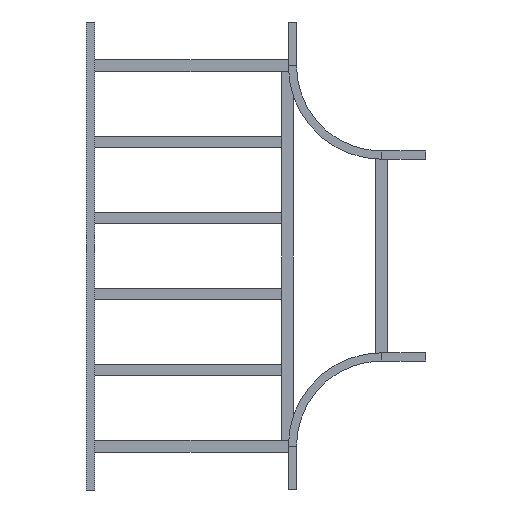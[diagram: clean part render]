
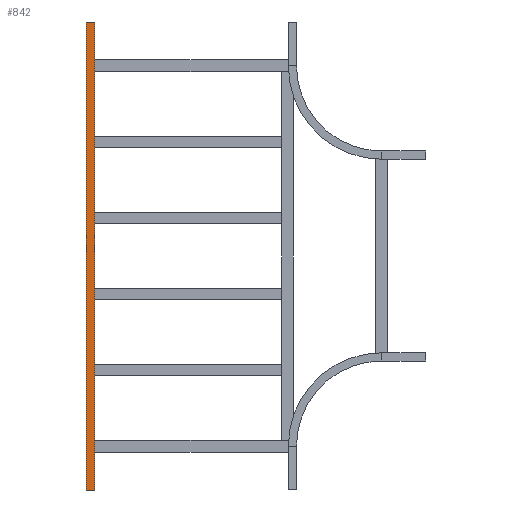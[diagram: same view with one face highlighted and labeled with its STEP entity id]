
A CAD part, front view. The second image highlights one B-rep face of the part: STEP entity #842.
In plain terms, the highlighted planar face has unit normal (0, -1, 0).
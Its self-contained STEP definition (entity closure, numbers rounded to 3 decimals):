
#27 = DIRECTION ( 'NONE',  ( 0., 0., 1. ) ) ;
#646 = VECTOR ( 'NONE', #27, 1000. ) ;
#797 = VERTEX_POINT ( 'NONE', #3210 ) ;
#842 = ADVANCED_FACE ( 'NONE', ( #4215 ), #3977, .T. ) ;
#909 = VECTOR ( 'NONE', #3197, 1000. ) ;
#1212 = ORIENTED_EDGE ( 'NONE', *, *, #3764, .T. ) ;
#1287 = LINE ( 'NONE', #4322, #3004 ) ;
#1288 = DIRECTION ( 'NONE',  ( 0., -1., 0. ) ) ;
#1308 = DIRECTION ( 'NONE',  ( 1., 0., 0. ) ) ;
#1319 = EDGE_LOOP ( 'NONE', ( #2446, #2978, #2888, #1212 ) ) ;
#1335 = LINE ( 'NONE', #1633, #646 ) ;
#1449 = CARTESIAN_POINT ( 'NONE',  ( 0., 0., 0. ) ) ;
#1470 = LINE ( 'NONE', #4094, #3402 ) ;
#1577 = EDGE_CURVE ( 'NONE', #3604, #797, #1470, .T. ) ;
#1633 = CARTESIAN_POINT ( 'NONE',  ( 0., 0., -1600. ) ) ;
#1848 = LINE ( 'NONE', #1915, #909 ) ;
#1910 = VERTEX_POINT ( 'NONE', #4152 ) ;
#1915 = CARTESIAN_POINT ( 'NONE',  ( 28., 0., -1600. ) ) ;
#1925 = DIRECTION ( 'NONE',  ( 1., 0., 0. ) ) ;
#2282 = EDGE_CURVE ( 'NONE', #1910, #3604, #1335, .T. ) ;
#2406 = DIRECTION ( 'NONE',  ( 1., 0., 0. ) ) ;
#2446 = ORIENTED_EDGE ( 'NONE', *, *, #1577, .F. ) ;
#2542 = CARTESIAN_POINT ( 'NONE',  ( 28., 0., -1600. ) ) ;
#2707 = AXIS2_PLACEMENT_3D ( 'NONE', #3601, #1288, #1925 ) ;
#2888 = ORIENTED_EDGE ( 'NONE', *, *, #2934, .T. ) ;
#2934 = EDGE_CURVE ( 'NONE', #1910, #3664, #1287, .T. ) ;
#2978 = ORIENTED_EDGE ( 'NONE', *, *, #2282, .F. ) ;
#3004 = VECTOR ( 'NONE', #1308, 1000. ) ;
#3197 = DIRECTION ( 'NONE',  ( 0., 0., 1. ) ) ;
#3210 = CARTESIAN_POINT ( 'NONE',  ( 28., 0., 0. ) ) ;
#3402 = VECTOR ( 'NONE', #2406, 1000. ) ;
#3601 = CARTESIAN_POINT ( 'NONE',  ( 28., 0., -1600. ) ) ;
#3604 = VERTEX_POINT ( 'NONE', #1449 ) ;
#3664 = VERTEX_POINT ( 'NONE', #2542 ) ;
#3764 = EDGE_CURVE ( 'NONE', #3664, #797, #1848, .T. ) ;
#3977 = PLANE ( 'NONE',  #2707 ) ;
#4094 = CARTESIAN_POINT ( 'NONE',  ( 28., 0., 0. ) ) ;
#4152 = CARTESIAN_POINT ( 'NONE',  ( 0., 0., -1600. ) ) ;
#4215 = FACE_OUTER_BOUND ( 'NONE', #1319, .T. ) ;
#4322 = CARTESIAN_POINT ( 'NONE',  ( 28., 0., -1600. ) ) ;
